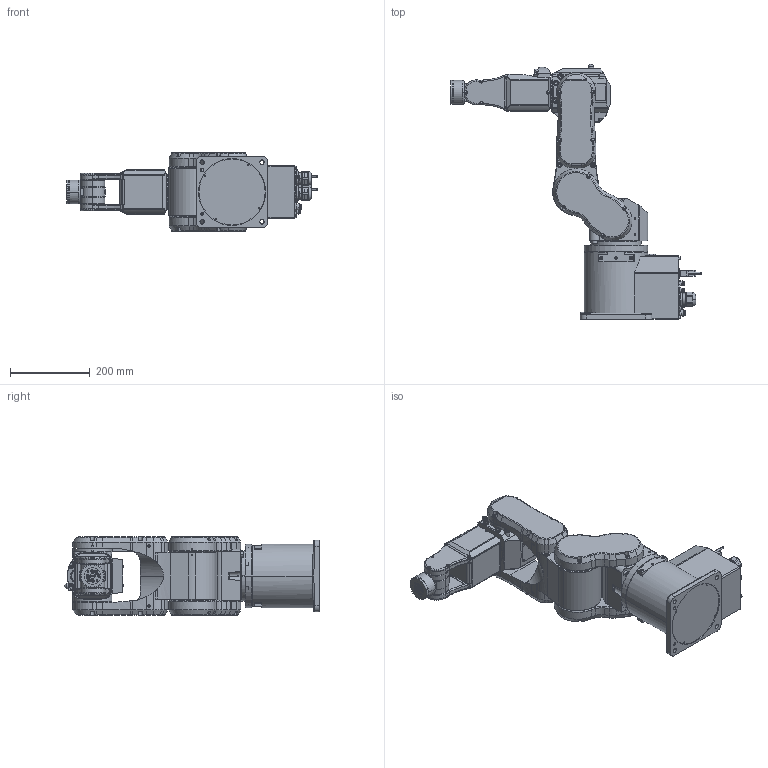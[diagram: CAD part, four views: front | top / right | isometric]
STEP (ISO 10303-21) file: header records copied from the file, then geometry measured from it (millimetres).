
FILE_DESCRIPTION( ( '' ), '1' );
FILE_NAME( '//expscmdclustefs.cadenas.external/client_exchange/iodir/jobs/output/wkb56949988_no0/STEP/C4_A601CR_2_14b.stp', '2013-04-17T12:29:57', ( '' ), ( '' ), ' ', ' ', ' ' );
FILE_SCHEMA( ( 'automotive_design' ) );
Length unit declared in the file: millimetre
Products named in the file (7): 1; 2; 3; 4; 5; 6; 7
Bounding box: 629 x 640.46 x 198 mm (x, y, z)
Volume: 16143852.3 mm3; surface area: 922343.2 mm2
Topology: 7 solids, 9 shells, 2475 faces, 6317 edges, 3973 vertices
Faces by surface type: plane 1070, cylinder 904, cone 280, torus 219, sphere 2
Entity records: 148215 total; most frequent: CARTESIAN_POINT 16791, DIRECTION 13303, STYLED_ITEM 12633, PRESENTATION_STYLE_ASSIGNMENT 12633, COLOUR_RGB 12633, ORIENTED_EDGE 12356, EDGE_CURVE 6178, CURVE_STYLE 6178
